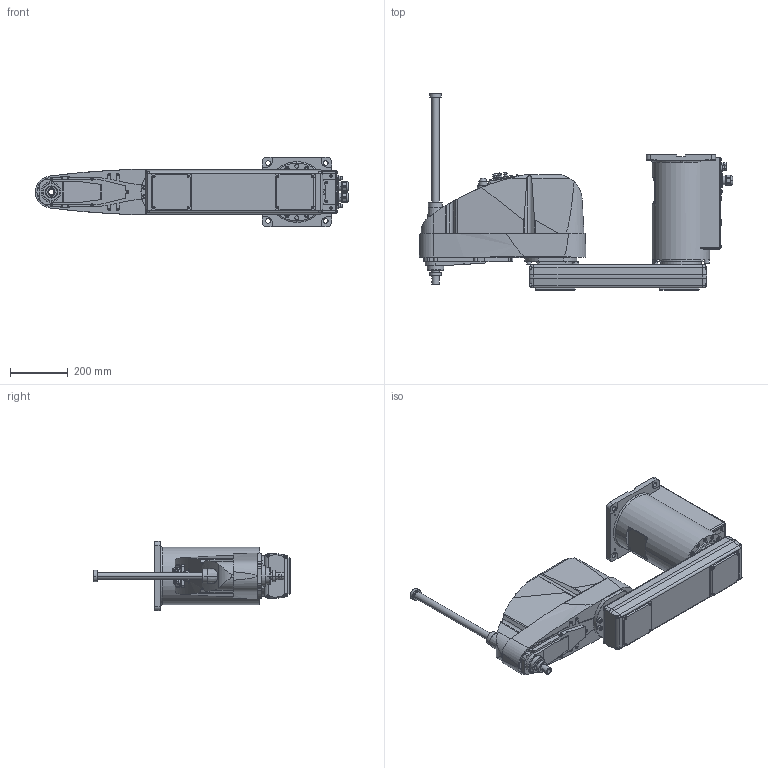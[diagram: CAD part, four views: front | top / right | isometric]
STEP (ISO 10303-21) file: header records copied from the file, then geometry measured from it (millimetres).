
FILE_DESCRIPTION( ( '' ), '1' );
FILE_NAME( '//expscmdclustefs.cadenas.external/client_exchange/iodir/jobs/output/wkb51505173_no0/STEP/G20_854SR_2_03.stp', '2012-11-22T13:20:49', ( '' ), ( '' ), ' ', ' ', ' ' );
FILE_SCHEMA( ( 'CONFIG_CONTROL_DESIGN' ) );
Length unit declared in the file: millimetre
Products named in the file (4): 1; 2; 3; 4
Bounding box: 1084.5 x 681.5 x 240 mm (x, y, z)
Volume: 40584773.1 mm3; surface area: 1402348.3 mm2
Topology: 4 solids, 5 shells, 1775 faces, 4308 edges, 2796 vertices
Faces by surface type: plane 990, cylinder 573, cone 188, torus 23, sphere 1
Entity records: 53202 total; most frequent: CARTESIAN_POINT 10266, DIRECTION 9168, ORIENTED_EDGE 8592, EDGE_CURVE 4296, AXIS2_PLACEMENT_3D 3200, VERTEX_POINT 2796, LINE 2768, VECTOR 2768
